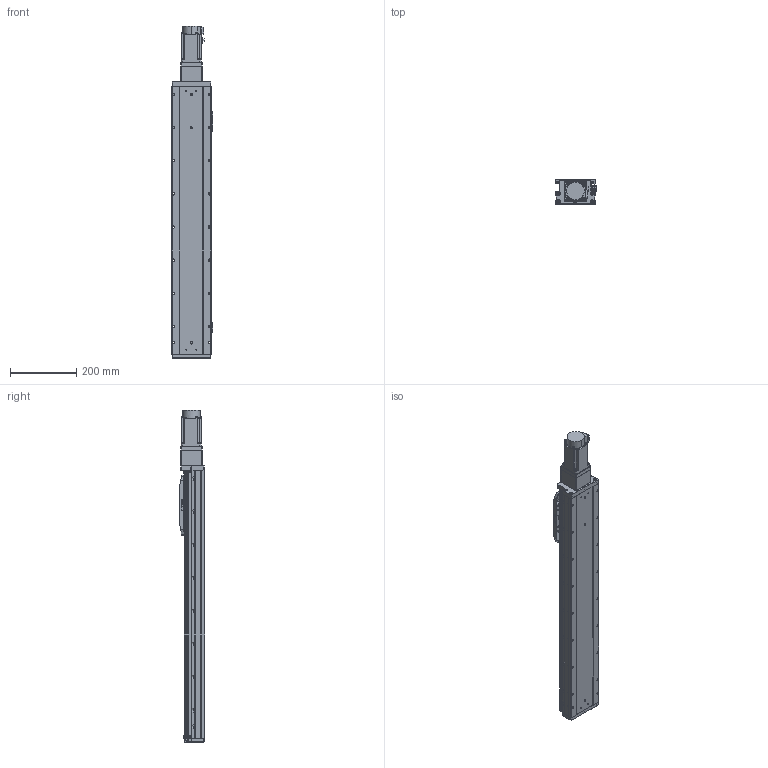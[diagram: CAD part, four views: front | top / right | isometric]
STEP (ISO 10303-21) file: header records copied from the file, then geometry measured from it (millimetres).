
FILE_DESCRIPTION (( 'STEP AP203' ), '1' );
FILE_NAME ('GTH12-600-BC-M40-C4.step', '2022-09-23T01:15:17', ( '微软用户' ), ( '微软中国' ), 'SwSTEP 2.0', 'SolidWorks 2020', '' );
FILE_SCHEMA (( 'CONFIG_CONTROL_DESIGN' ));
Length unit declared in the file: millimetre
Products named in the file (19): GBT 70.1-M3℅6; GBT96.1-2002 3×0.8; GBT 70.1-M5×16; BTH-M3X5X6; GTH120-001_600; GBT 70.3-M3℅8; CTHA86-006-1_CTHA86-006-2; GTH120-003; GTH80-022; CTHA86-013; GTH120-006; GTH80-028; CTHA86-027; GTH120-004; GTH50-023; hg-kn43j_-s100_; GTH120-013; GTH50-024; GTH12-600-BC-M40-C4
Assembly tree (62 placements, depth 2):
  GTH12-600-BC-M40-C4
    GTH120-001_600
    GTH120-003
    GTH120-006
    GTH120-004
    GTH120-013
    GBT 70.1-M3℅6  x14
    GBT 70.1-M5×16  x10
    GBT 70.3-M3℅8  x6
    GTH80-022
    GTH80-028  x2
    GTH50-023  x3
    GTH50-024  x3
    GBT96.1-2002 3×0.8  x6
    BTH-M3X5X6  x8
    CTHA86-006-1_CTHA86-006-2
    CTHA86-013
    CTHA86-027
    hg-kn43j_-s100_
Bounding box: 125.7 x 76 x 1003.7 mm (x, y, z)
Volume: 6354563.7 mm3; surface area: 593472.9 mm2
Topology: 64 solids, 64 shells, 2464 faces, 5713 edges, 3481 vertices
Faces by surface type: plane 1256, cylinder 699, cone 331, torus 170, sphere 8
Entity records: 44294 total; most frequent: DIRECTION 7403, CARTESIAN_POINT 7106, ORIENTED_EDGE 6808, EDGE_CURVE 3404, AXIS2_PLACEMENT_3D 2587, LINE 2229, VECTOR 2229, VERTEX_POINT 2140
